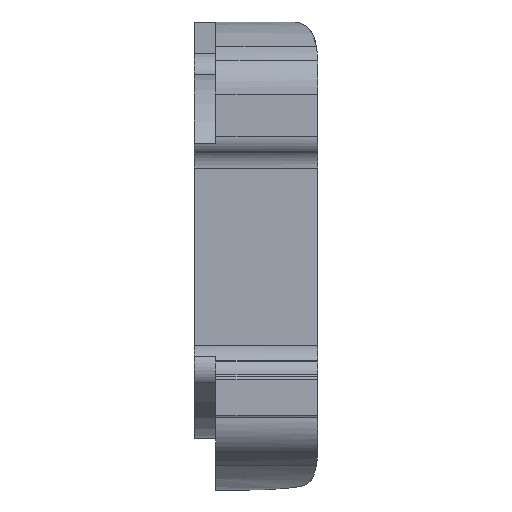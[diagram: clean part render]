
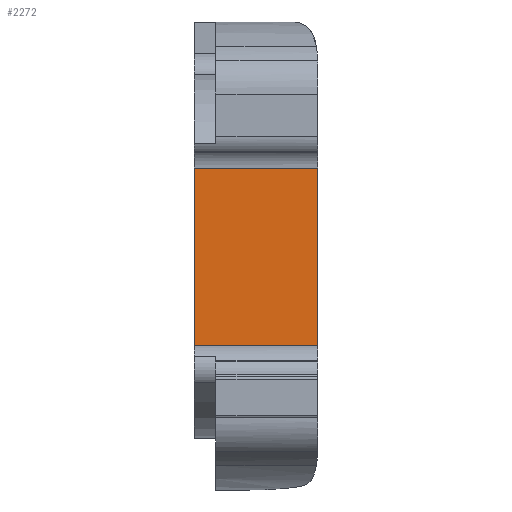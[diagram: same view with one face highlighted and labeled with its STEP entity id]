
A CAD part, left-side view. The second image highlights one B-rep face of the part: STEP entity #2272.
In plain terms, the highlighted planar face has unit normal (-1, 0, 0).
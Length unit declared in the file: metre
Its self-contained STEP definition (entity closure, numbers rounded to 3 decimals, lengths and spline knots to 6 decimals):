
#299=LINE('',#3799,#482);
#300=LINE('',#3802,#483);
#301=LINE('',#3804,#484);
#302=LINE('',#3806,#485);
#482=VECTOR('',#2936,1.);
#483=VECTOR('',#2937,1.);
#484=VECTOR('',#2938,1.);
#485=VECTOR('',#2939,1.);
#822=ORIENTED_EDGE('',*,*,#1496,.T.);
#823=ORIENTED_EDGE('',*,*,#1497,.T.);
#824=ORIENTED_EDGE('',*,*,#1498,.T.);
#825=ORIENTED_EDGE('',*,*,#1499,.T.);
#1496=EDGE_CURVE('',#1820,#1821,#299,.F.);
#1497=EDGE_CURVE('',#1821,#1822,#300,.T.);
#1498=EDGE_CURVE('',#1822,#1823,#301,.T.);
#1499=EDGE_CURVE('',#1823,#1820,#302,.T.);
#1820=VERTEX_POINT('',#3800);
#1821=VERTEX_POINT('',#3801);
#1822=VERTEX_POINT('',#3803);
#1823=VERTEX_POINT('',#3805);
#1982=EDGE_LOOP('',(#822,#823,#824,#825));
#2105=FACE_BOUND('',#1982,.T.);
#2211=PLANE('',#2487);
#2272=ADVANCED_FACE('',(#2105),#2211,.T.);
#2487=AXIS2_PLACEMENT_3D('',#3798,#2934,#2935);
#2934=DIRECTION('',(-1.,0.,0.));
#2935=DIRECTION('',(0.,0.,1.));
#2936=DIRECTION('',(0.,-1.,0.));
#2937=DIRECTION('',(0.,0.,-1.));
#2938=DIRECTION('',(0.,-1.,0.));
#2939=DIRECTION('',(0.,0.,1.));
#3798=CARTESIAN_POINT('',(-0.07174,1.979167,0.002436));
#3799=CARTESIAN_POINT('',(-0.07174,1.979167,0.023056));
#3800=CARTESIAN_POINT('',(-0.07174,-0.058702,0.023056));
#3801=CARTESIAN_POINT('',(-0.07174,-0.03,0.023056));
#3802=CARTESIAN_POINT('',(-0.07174,-0.03,0.002568));
#3803=CARTESIAN_POINT('',(-0.07174,-0.03,-0.018183));
#3804=CARTESIAN_POINT('',(-0.07174,1.979167,-0.018183));
#3805=CARTESIAN_POINT('',(-0.07174,-0.058702,-0.018183));
#3806=CARTESIAN_POINT('',(-0.07174,-0.058702,-0.018183));
